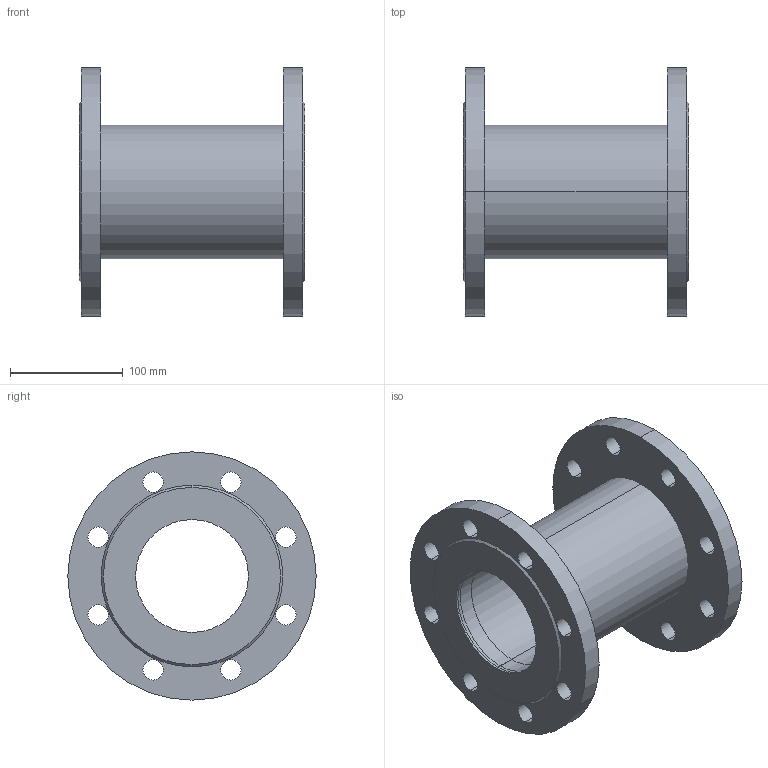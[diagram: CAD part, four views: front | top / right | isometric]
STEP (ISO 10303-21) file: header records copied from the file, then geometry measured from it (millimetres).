
FILE_DESCRIPTION(('STEP AP214'),'1');
FILE_NAME('U:/VDI-Daten/8500/8500_PN16_DN100_L200.STP','2012-06-12T15:00:27',(' '),(' '),'Spatial InterOp 3D',' ',' ');
FILE_SCHEMA(('automotive_design'));
Length unit declared in the file: millimetre
Products named in the file (5): 3D-Objekt
Bounding box: 200 x 220 x 220 mm (x, y, z)
Volume: 1589772.6 mm3; surface area: 350446 mm2
Topology: 5 solids, 5 shells, 62 faces, 156 edges, 104 vertices
Faces by surface type: cylinder 48, plane 10, cone 4
Entity records: 2621 total; most frequent: DIRECTION 394, CARTESIAN_POINT 327, ORIENTED_EDGE 312, AXIS2_PLACEMENT_3D 171, EDGE_CURVE 156, EDGE_LOOP 104, VERTEX_POINT 104, CIRCLE 104
